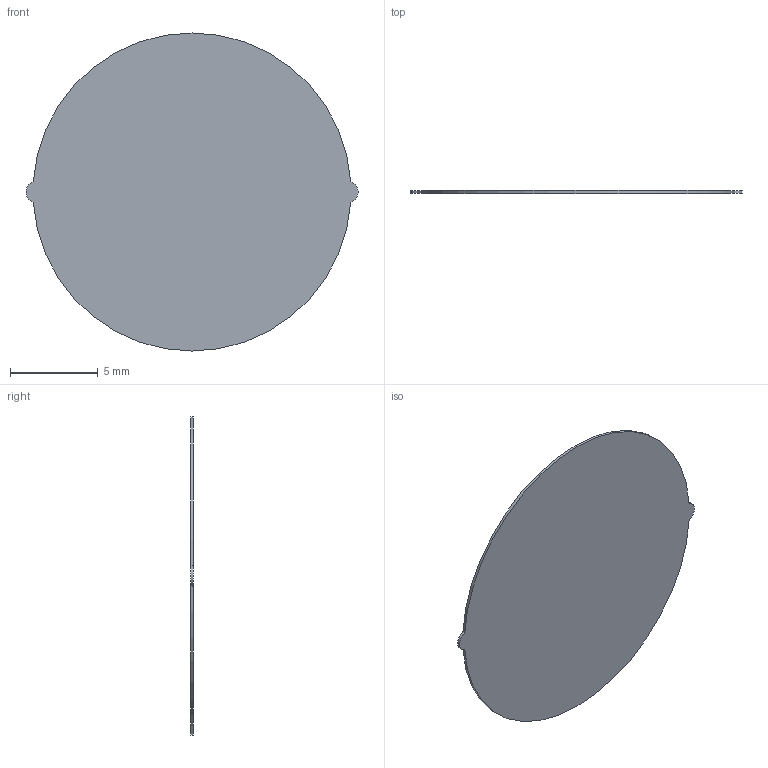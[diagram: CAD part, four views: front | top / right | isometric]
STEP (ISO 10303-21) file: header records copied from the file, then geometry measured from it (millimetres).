
FILE_DESCRIPTION(/* description */ (''),/* implementation_level */ '2;1');
FILE_NAME(/* name */ 'BSRRU_vereinfacht.stp',/* time_stamp */ '2024-07-08T16:28:47+02:00',/* author */ ('jspachtholz'),/* organization */ (''),/* preprocessor_version */ 'ST-DEVELOPER v19.2',/* originating_system */ 'Autodesk Inventor 2023',/* authorisation */ '');
FILE_SCHEMA (('AUTOMOTIVE_DESIGN { 1 0 10303 214 3 1 1 }'));
Length unit declared in the file: millimetre
Products named in the file (1): BSRRU_vereinfacht
Bounding box: 18.9 x 0.15 x 18.1 mm (x, y, z)
Volume: 38.7 mm3; surface area: 524.6 mm2
Topology: 1 solids, 1 shells, 6 faces, 12 edges, 8 vertices
Faces by surface type: cylinder 4, plane 2
Entity records: 207 total; most frequent: DIRECTION 34, CARTESIAN_POINT 27, ORIENTED_EDGE 24, AXIS2_PLACEMENT_3D 15, EDGE_CURVE 12, CIRCLE 8, VERTEX_POINT 8, FACE_OUTER_BOUND 6
